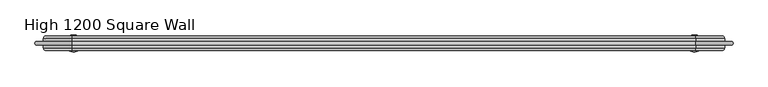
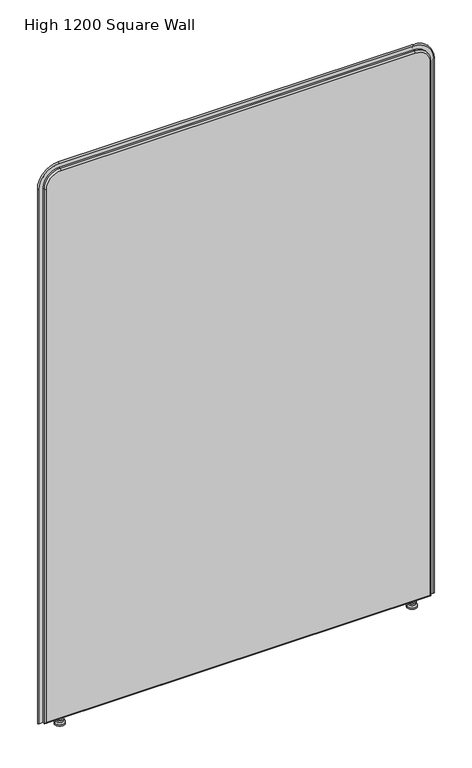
"""IFC4 building model written with IfcOpenShell, lengths in millimetres: furniture geometry, DBLTD_Sixteen3_PrivacyScreens_Artus_Square : High 1200 Square Wall."""

import ifcopenshell
import ifcopenshell.guid

model = None  # the IFC model being written
_history = None  # IfcOwnerHistory: only IFC2X3 demands one
_inside = {}  # id of a spatial element -> (the spatial element, [elements in it])
_under = {}  # id of a project, library or spatial element -> (it, [spatial elements below it])
_declared = {}  # id of a project -> (the project, [libraries it declares])
_typed = {}  # id of a type object -> (the type object, [elements of that type])
_made_of = {}  # id of a material, layer set ... -> (it, [elements and type objects made of it])


def new_model(schema):
    """Start an empty IFC model of exactly this schema.

    Asked for "IFC4X3", IfcOpenShell would pick the latest addendum, in which some entities
    have other attributes; the version numbers below select the first issue.
    IFC2X3 requires an IfcOwnerHistory on every rooted entity: one is made here for all.
    """
    global model, _history
    if schema == "IFC4X3":
        model = ifcopenshell.file(schema_version=(4, 3, 0, 0))
    else:
        model = ifcopenshell.file(schema=schema)
    _inside.clear()
    _under.clear()
    _declared.clear()
    _typed.clear()
    _made_of.clear()
    _history = None
    if model.schema == "IFC2X3":
        org = make("IfcOrganization", Name="unknown")
        user = make(
            "IfcPersonAndOrganization",
            ThePerson=make("IfcPerson", FamilyName="unknown"),
            TheOrganization=org,
        )
        app = make(
            "IfcApplication",
            ApplicationDeveloper=org,
            Version="unknown",
            ApplicationFullName="unknown",
            ApplicationIdentifier="unknown",
        )
        _history = make(
            "IfcOwnerHistory",
            OwningUser=user,
            OwningApplication=app,
            ChangeAction="ADDED",
            CreationDate=0,
        )
    return model


def make(cls, **values):
    """One entity of the class cls with the attributes given. An attribute that is None is left unset."""
    return model.create_entity(
        cls, **{name: value for name, value in values.items() if value is not None}
    )


def rooted(cls, **values):
    """An entity with a GlobalId (a new one), such as an element, a storey or a relation."""
    return make(cls, GlobalId=ifcopenshell.guid.new(), OwnerHistory=_history, **values)


def si_unit(unit_type, name, prefix=None):
    """IfcSIUnit, for example si_unit("LENGTHUNIT", "METRE", prefix="MILLI")."""
    return make("IfcSIUnit", UnitType=unit_type, Prefix=prefix, Name=name)


def assignment(units):
    """IfcUnitAssignment: the units of a project."""
    return None if units is None else make("IfcUnitAssignment", Units=units)


def point(xyz):
    """IfcCartesianPoint."""
    return None if xyz is None else make("IfcCartesianPoint", Coordinates=xyz)


def direction(xyz):
    """IfcDirection."""
    return None if xyz is None else make("IfcDirection", DirectionRatios=xyz)


def frame(location, z_axis=None, x_axis=None):
    """IfcAxis2Placement3D, a coordinate frame: its origin and axes. An axis left out is left unset."""
    return make(
        "IfcAxis2Placement3D",
        Location=point(location),
        Axis=direction(z_axis),
        RefDirection=direction(x_axis),
    )


def origin():
    """The frame at (0, 0, 0) with its axes left unset."""
    return frame((0.0, 0.0, 0.0))


def place(relative_to, where):
    """IfcLocalPlacement: puts the frame where relative to a parent placement (None: the world)."""
    return make(
        "IfcLocalPlacement", PlacementRelTo=relative_to, RelativePlacement=where
    )


def context(
    kind, dimensions, precision=None, world=None, true_north=None, identifier=None
):
    """IfcGeometricRepresentationContext, for example the 3D "Model" context."""
    return make(
        "IfcGeometricRepresentationContext",
        ContextIdentifier=identifier,
        ContextType=kind,
        CoordinateSpaceDimension=dimensions,
        Precision=precision,
        WorldCoordinateSystem=world,
        TrueNorth=true_north,
    )


def project(units=None, contexts=None):
    """IfcProject with its units and contexts."""
    return rooted(
        "IfcProject",
        Name="project",
        RepresentationContexts=contexts,
        UnitsInContext=assignment(units),
    )


def spatial(cls, under=None, at=None, **own):
    """A site, building, storey or space (cls), placed at a placement, below another one or the project."""
    s = rooted(cls, ObjectPlacement=at, **own)
    if under is not None:
        _under.setdefault(under.id(), (under, []))[1].append(s)
    return s


def polyline(points):
    """IfcPolyline through the points."""
    return make("IfcPolyline", Points=[point(p) for p in points])


def circle_curve(where, radius):
    """IfcCircle in the frame where."""
    return make("IfcCircle", Position=where, Radius=radius)


def ellipse_curve(where, semi_axis1, semi_axis2):
    """IfcEllipse in the frame where."""
    return make(
        "IfcEllipse", Position=where, SemiAxis1=semi_axis1, SemiAxis2=semi_axis2
    )


def trimmed(basis, trim1, trim2, sense, master):
    """IfcTrimmedCurve: the piece of a basis curve between two trims."""
    return make(
        "IfcTrimmedCurve",
        BasisCurve=basis,
        Trim1=trim1,
        Trim2=trim2,
        SenseAgreement=sense,
        MasterRepresentation=master,
    )


def shape(context_of_items, identifier, shape_type, items):
    """IfcShapeRepresentation: the items that make up one representation, for example the "Body"."""
    return make(
        "IfcShapeRepresentation",
        ContextOfItems=context_of_items,
        RepresentationIdentifier=identifier,
        RepresentationType=shape_type,
        Items=items,
    )


def source(mapping_origin, context_of_items, identifier, shape_type, items):
    """IfcRepresentationMap: a shape defined once, which mapped items show again and again."""
    return make(
        "IfcRepresentationMap",
        MappingOrigin=mapping_origin,
        MappedRepresentation=shape(context_of_items, identifier, shape_type, items),
    )


def transform(
    local_origin,
    x_axis=None,
    y_axis=None,
    z_axis=None,
    scale=None,
    scale2=None,
    scale3=None,
    uniform=True,
):
    """IfcCartesianTransformationOperator3D, or its non-uniform kind. x_axis, y_axis, z_axis: its Axis1, 2, 3."""
    if uniform:
        return make(
            "IfcCartesianTransformationOperator3D",
            Axis1=direction(x_axis),
            Axis2=direction(y_axis),
            LocalOrigin=point(local_origin),
            Scale=scale,
            Axis3=direction(z_axis),
        )
    return make(
        "IfcCartesianTransformationOperator3DnonUniform",
        Axis1=direction(x_axis),
        Axis2=direction(y_axis),
        LocalOrigin=point(local_origin),
        Scale=scale,
        Axis3=direction(z_axis),
        Scale2=scale2,
        Scale3=scale3,
    )


def mapped(mapping_source, mapping_target):
    """IfcMappedItem: shows the shape of a source again, moved by a transform."""
    return make(
        "IfcMappedItem", MappingSource=mapping_source, MappingTarget=mapping_target
    )


def made_of(thing, what):
    """Note that an element or type object is made of a material, layer set ...; save() writes the relation."""
    if what is not None:
        _made_of.setdefault(what.id(), (what, []))[1].append(thing)
    return thing


def element(
    cls,
    number,
    at=None,
    inside=None,
    cuts=None,
    type_object=None,
    material=None,
    context=None,
    identifier="Body",
    shape_type=None,
    held_by="IfcProductDefinitionShape",
    body=None,
    shapes=None,
    **own,
):
    """One element of the class cls, such as IfcWall. Its Tag is "e" and its number.

    at: its placement. inside: the storey or other place that contains it. cuts: it is an
    opening in that element (IfcRelVoidsElement). A single representation is given by context,
    identifier, shape_type and body (its items); several are given by shapes. held_by: the class
    of the entity that holds the representations. save() writes the other relations.
    """
    e = rooted(cls, Tag="e%d" % number, ObjectPlacement=at, **own)
    if body is not None:
        shapes = [shape(context, identifier, shape_type, body)]
    if shapes is not None:
        e.Representation = make(held_by, Representations=shapes)
    if inside is not None:
        _inside.setdefault(inside.id(), (inside, []))[1].append(e)
    if cuts is not None:
        rooted(
            "IfcRelVoidsElement", RelatingBuildingElement=cuts, RelatedOpeningElement=e
        )
    if type_object is not None:
        _typed.setdefault(type_object.id(), (type_object, []))[1].append(e)
    return made_of(e, material)


def aggregate(whole, parts):
    """IfcRelAggregates: a whole, such as a stair, and the parts it consists of."""
    return rooted("IfcRelAggregates", RelatingObject=whole, RelatedObjects=parts)


def save(model, path):
    """Write the relations noted so far, then the file.

    IfcRelAggregates (storeys below a building ...), IfcRelContainedInSpatialStructure (elements
    in a storey), IfcRelDefinesByType, IfcRelAssociatesMaterial and IfcRelDeclares: one each for
    every whole, place, type object, material and project.
    """
    for whole, parts in _under.values():
        aggregate(whole, parts)
    for where, things in _inside.values():
        rooted(
            "IfcRelContainedInSpatialStructure",
            RelatedElements=things,
            RelatingStructure=where,
        )
    for kind, things in _typed.values():
        rooted("IfcRelDefinesByType", RelatedObjects=things, RelatingType=kind)
    for what, things in _made_of.values():
        rooted("IfcRelAssociatesMaterial", RelatedObjects=things, RelatingMaterial=what)
    for by, libraries in _declared.values():
        rooted("IfcRelDeclares", RelatingContext=by, RelatedDefinitions=libraries)
    model.write(path)


def plane_surface(at):
    """IfcPlane: the flat surface through the origin of the frame at, square to its z axis."""
    return make("IfcPlane", Position=at)


def cylinder_surface(at, radius):
    """IfcCylindricalSurface: all points at the distance radius from the z axis of the frame at."""
    return make("IfcCylindricalSurface", Position=at, Radius=radius)


def revolved_surface(curve, axis_point, axis_direction):
    """IfcSurfaceOfRevolution: the curve turned about the line through axis_point along axis_direction."""
    return make(
        "IfcSurfaceOfRevolution",
        SweptCurve=make("IfcArbitraryOpenProfileDef", ProfileType="CURVE", Curve=curve),
        AxisPosition=make("IfcAxis1Placement", Location=point(axis_point), Axis=direction(axis_direction)),
    )


def advanced_brep(points, edges, surfaces, faces):
    """IfcAdvancedBrep: a solid bounded by faces that lie on surfaces and meet in shared edges.

    An edge is (start, end): straight between two places in points (the first is 0);
    or (start, end, curve); or (start, end, curve, False) where it runs against its curve.
    A face is (place in surfaces, loops), or (place, loops, False) where it looks against
    its surface's normal. A loop lists edges by number (the first is 1), with a minus sign
    where the edge is run from its end to its start. The first loop is the outer one.
    """
    corners = [point(p) for p in points]
    vertices = [make("IfcVertexPoint", VertexGeometry=c) for c in corners]
    made = []
    for start, end, *more in edges:
        made.append(
            make(
                "IfcEdgeCurve",
                EdgeStart=vertices[start],
                EdgeEnd=vertices[end],
                EdgeGeometry=more[0] if more else make("IfcPolyline", Points=[corners[start], corners[end]]),
                SameSense=more[1] if len(more) > 1 else True,
            )
        )
    hull = []
    for where, loops, *sense in faces:
        bounds = []
        for j, loop in enumerate(loops):
            ring = [make("IfcOrientedEdge", EdgeElement=made[abs(k) - 1], Orientation=k > 0) for k in loop]
            bounds.append(
                make(
                    "IfcFaceOuterBound" if j == 0 else "IfcFaceBound",
                    Bound=make("IfcEdgeLoop", EdgeList=ring),
                    Orientation=True,
                )
            )
        hull.append(make("IfcAdvancedFace", Bounds=bounds, FaceSurface=surfaces[where], SameSense=sense[0] if sense else True))
    return make("IfcAdvancedBrep", Outer=make("IfcClosedShell", CfsFaces=hull))


def high_1200_square_wall_e177793e(model_context):
    return source(origin(), model_context, "Body", "AdvancedBrep", [
        advanced_brep(
        [(542.2938623, -820.0, 22.0), (535.2938623, -820.0, 22.0), (549.2938623, -820.0, 22.0), (535.2938623, -820.0, 15.0), (549.2938623, -820.0, 15.0), (530.8431626, -820.0, 15.0), (553.744562, -820.0, 15.0), (530.8431626, -820.0, 10.0), (553.744562, -820.0, 10.0), (527.2938623, -820.0, 5.0), (557.2938623, -820.0, 5.0), (527.2938623, -820.0, 0.0), (557.2938623, -820.0, 0.0), (542.2938623, -820.0, 0.0)],
        [
            (0, 1),
            (1, 2, circle_curve(frame((542.2938623, -820.0, 22.0), z_axis=(0.0, 0.0, 1.0), x_axis=(1.0, 0.0, 0.0)), 7.0)),
            (2, 0),
            (2, 1, circle_curve(frame((542.2938623, -820.0, 22.0), z_axis=(0.0, 0.0, 1.0), x_axis=(1.0, 0.0, 0.0)), 7.0)),
            (1, 3),
            (3, 4, circle_curve(frame((542.2938623, -820.0, 15.0), z_axis=(0.0, 0.0, 1.0), x_axis=(1.0, 0.0, 0.0)), 7.0)),
            (4, 2),
            (4, 3, circle_curve(frame((542.2938623, -820.0, 15.0), z_axis=(0.0, 0.0, 1.0), x_axis=(1.0, 0.0, 0.0)), 7.0)),
            (3, 5),
            (5, 6, circle_curve(frame((542.2938623, -820.0, 15.0), z_axis=(0.0, 0.0, 1.0), x_axis=(1.0, 0.0, 0.0)), 11.4506997)),
            (6, 4),
            (6, 5, circle_curve(frame((542.2938623, -820.0, 15.0), z_axis=(0.0, 0.0, 1.0), x_axis=(1.0, 0.0, 0.0)), 11.4506997)),
            (5, 7),
            (7, 8, circle_curve(frame((542.2938623, -820.0, 10.0), z_axis=(0.0, 0.0, 1.0), x_axis=(1.0, 0.0, 0.0)), 11.4506997)),
            (8, 6),
            (8, 7, circle_curve(frame((542.2938623, -820.0, 10.0), z_axis=(0.0, 0.0, 1.0), x_axis=(1.0, 0.0, 0.0)), 11.4506997)),
            (7, 9),
            (9, 10, circle_curve(frame((542.2938623, -820.0, 5.0), z_axis=(0.0, 0.0, 1.0), x_axis=(1.0, 0.0, 0.0)), 15.0)),
            (10, 8),
            (10, 9, circle_curve(frame((542.2938623, -820.0, 5.0), z_axis=(0.0, 0.0, 1.0), x_axis=(1.0, 0.0, 0.0)), 15.0)),
            (9, 11),
            (11, 12, circle_curve(frame((542.2938623, -820.0, 0.0), z_axis=(0.0, 0.0, 1.0), x_axis=(1.0, 0.0, 0.0)), 15.0)),
            (12, 10),
            (12, 11, circle_curve(frame((542.2938623, -820.0, 0.0), z_axis=(0.0, 0.0, 1.0), x_axis=(1.0, 0.0, 0.0)), 15.0)),
            (11, 13),
            (13, 12),
        ],
        [
            plane_surface(frame((542.2938623, -820.0, 22.0), z_axis=(0.0, 0.0, 1.0), x_axis=(1.0, 0.0, 0.0))),
            cylinder_surface(frame((542.2938623, -820.0, 5.0), z_axis=(0.0, 0.0, 1.0), x_axis=(1.0, 0.0, 0.0)), 7.0),
            plane_surface(frame((542.2938623, -820.0, 15.0), z_axis=(0.0, 0.0, 1.0), x_axis=(1.0, 0.0, 0.0))),
            cylinder_surface(frame((542.2938623, -820.0, 5.0), z_axis=(0.0, 0.0, 1.0), x_axis=(1.0, 0.0, 0.0)), 11.4506997),
            revolved_surface(polyline([(557.2938623, -820.0, 5.0), (553.744562, -820.0, 10.0)]), (542.2938623, -820.0, 5.0), (0.0, 0.0, 1.0)),
            cylinder_surface(frame((542.2938623, -820.0, 5.0), z_axis=(0.0, 0.0, 1.0), x_axis=(1.0, 0.0, 0.0)), 15.0),
            plane_surface(frame((542.2938623, -820.0, 0.0), z_axis=(0.0, 0.0, -1.0), x_axis=(1.0, 0.0, 0.0))),
        ],
        [
            (0, [[1, 2, 3]]),
            (0, [[-3, 4, -1]]),
            (1, [[5, 6, 7, -2]]),
            (1, [[-7, 8, -5, -4]]),
            (2, [[9, 10, 11, -6]]),
            (2, [[-11, 12, -9, -8]]),
            (3, [[13, 14, 15, -10]]),
            (3, [[-15, 16, -13, -12]]),
            (4, [[17, 18, 19, -14]]),
            (4, [[-19, 20, -17, -16]]),
            (5, [[21, 22, 23, -18]]),
            (5, [[-23, 24, -21, -20]]),
            (6, [[25, 26, -22]]),
            (6, [[-26, -25, -24]]),
        ],
    ),
        advanced_brep(
        [(-535.2938623, -820.0, 22.0), (-542.2938623, -820.0, 22.0), (-549.2938623, -820.0, 22.0), (-535.2938623, -820.0, 15.0), (-549.2938623, -820.0, 15.0), (-530.8431626, -820.0, 15.0), (-553.744562, -820.0, 15.0), (-530.8431626, -820.0, 10.0), (-553.744562, -820.0, 10.0), (-527.2938623, -820.0, 5.0), (-557.2938623, -820.0, 5.0), (-527.2938623, -820.0, 0.0), (-557.2938623, -820.0, 0.0), (-542.2938623, -820.0, 0.0)],
        [
            (0, 1),
            (1, 2),
            (2, 0, circle_curve(frame((-542.2938623, -820.0, 22.0), z_axis=(0.0, 0.0, 1.0), x_axis=(-1.0, 0.0, 0.0)), 7.0)),
            (0, 2, circle_curve(frame((-542.2938623, -820.0, 22.0), z_axis=(0.0, 0.0, 1.0), x_axis=(-1.0, 0.0, 0.0)), 7.0)),
            (3, 0),
            (2, 4),
            (4, 3, circle_curve(frame((-542.2938623, -820.0, 15.0), z_axis=(0.0, 0.0, 1.0), x_axis=(-1.0, 0.0, 0.0)), 7.0)),
            (3, 4, circle_curve(frame((-542.2938623, -820.0, 15.0), z_axis=(0.0, 0.0, 1.0), x_axis=(-1.0, 0.0, 0.0)), 7.0)),
            (5, 3),
            (4, 6),
            (6, 5, circle_curve(frame((-542.2938623, -820.0, 15.0), z_axis=(0.0, 0.0, 1.0), x_axis=(-1.0, 0.0, 0.0)), 11.4506997)),
            (5, 6, circle_curve(frame((-542.2938623, -820.0, 15.0), z_axis=(0.0, 0.0, 1.0), x_axis=(-1.0, 0.0, 0.0)), 11.4506997)),
            (7, 5),
            (6, 8),
            (8, 7, circle_curve(frame((-542.2938623, -820.0, 10.0), z_axis=(0.0, 0.0, 1.0), x_axis=(-1.0, 0.0, 0.0)), 11.4506997)),
            (7, 8, circle_curve(frame((-542.2938623, -820.0, 10.0), z_axis=(0.0, 0.0, 1.0), x_axis=(-1.0, 0.0, 0.0)), 11.4506997)),
            (9, 7),
            (8, 10),
            (10, 9, circle_curve(frame((-542.2938623, -820.0, 5.0), z_axis=(0.0, 0.0, 1.0), x_axis=(-1.0, 0.0, 0.0)), 15.0)),
            (9, 10, circle_curve(frame((-542.2938623, -820.0, 5.0), z_axis=(0.0, 0.0, 1.0), x_axis=(-1.0, 0.0, 0.0)), 15.0)),
            (11, 9),
            (10, 12),
            (12, 11, circle_curve(frame((-542.2938623, -820.0, 0.0), z_axis=(0.0, 0.0, 1.0), x_axis=(-1.0, 0.0, 0.0)), 15.0)),
            (11, 12, circle_curve(frame((-542.2938623, -820.0, 0.0), z_axis=(0.0, 0.0, 1.0), x_axis=(-1.0, 0.0, 0.0)), 15.0)),
            (13, 11),
            (12, 13),
        ],
        [
            plane_surface(frame((-542.2938623, -820.0, 22.0), z_axis=(0.0, 0.0, 1.0), x_axis=(-1.0, 0.0, 0.0))),
            cylinder_surface(frame((-542.2938623, -820.0, 5.0), z_axis=(0.0, 0.0, -1.0), x_axis=(-1.0, 0.0, 0.0)), 7.0),
            plane_surface(frame((-542.2938623, -820.0, 15.0), z_axis=(0.0, 0.0, 1.0), x_axis=(-1.0, 0.0, 0.0))),
            cylinder_surface(frame((-542.2938623, -820.0, 5.0), z_axis=(0.0, 0.0, -1.0), x_axis=(-1.0, 0.0, 0.0)), 11.4506997),
            revolved_surface(polyline([(-553.744562, -820.0, 10.0), (-557.2938623, -820.0, 5.0)]), (-542.2938623, -820.0, 5.0), (0.0, 0.0, -1.0)),
            cylinder_surface(frame((-542.2938623, -820.0, 5.0), z_axis=(0.0, 0.0, -1.0), x_axis=(-1.0, 0.0, 0.0)), 15.0),
            plane_surface(frame((-542.2938623, -820.0, 0.0), z_axis=(0.0, 0.0, -1.0), x_axis=(-1.0, 0.0, 0.0))),
        ],
        [
            (0, [[1, 2, 3]]),
            (0, [[-2, -1, 4]]),
            (1, [[5, -3, 6, 7]]),
            (1, [[-6, -4, -5, 8]]),
            (2, [[9, -7, 10, 11]]),
            (2, [[-10, -8, -9, 12]]),
            (3, [[13, -11, 14, 15]]),
            (3, [[-14, -12, -13, 16]]),
            (4, [[17, -15, 18, 19]]),
            (4, [[-18, -16, -17, 20]]),
            (5, [[21, -19, 22, 23]]),
            (5, [[-22, -20, -21, 24]]),
            (6, [[25, -23, 26]]),
            (6, [[-26, -24, -25]]),
        ],
    ),
        advanced_brep(
        [(-590.0, -807.0, 27.0), (-590.0, -807.0, 1760.0), (-545.0, -807.0, 1805.0), (545.0, -807.0, 1805.0), (590.0, -807.0, 1760.0), (590.0, -807.0, 27.0), (590.0, -833.0, 27.0), (590.0, -833.0, 1760.0), (545.0, -833.0, 1805.0), (-545.0, -833.0, 1805.0), (-590.0, -833.0, 1760.0), (-590.0, -833.0, 27.0), (545.0, -812.0, 1810.0), (-545.0, -812.0, 1810.0), (-545.0, -828.0, 1810.0), (545.0, -828.0, 1810.0), (-595.0, -812.0, 1760.0), (-595.0, -828.0, 1760.0), (-595.0, -812.0, 22.0), (-595.0, -828.0, 22.0), (595.0, -812.0, 22.0), (595.0, -828.0, 22.0), (595.0, -812.0, 1760.0), (595.0, -828.0, 1760.0)],
        [
            (0, 1),
            (1, 2, circle_curve(frame((-545.0, -807.0, 1760.0), z_axis=(0.0, 1.0, 0.0), x_axis=(0.0, 0.0, 1.0)), 45.0)),
            (2, 3),
            (3, 4, circle_curve(frame((545.0, -807.0, 1760.0), z_axis=(0.0, 1.0, 0.0), x_axis=(1.0, 0.0, 0.0)), 45.0)),
            (4, 5),
            (5, 0),
            (6, 7),
            (7, 8, circle_curve(frame((545.0, -833.0, 1760.0), z_axis=(0.0, -1.0, 0.0), x_axis=(1.0, 0.0, 0.0)), 45.0)),
            (8, 9),
            (9, 10, circle_curve(frame((-545.0, -833.0, 1760.0), z_axis=(0.0, -1.0, 0.0), x_axis=(0.0, 0.0, 1.0)), 45.0)),
            (10, 11),
            (11, 6),
            (12, 13),
            (13, 14),
            (14, 15),
            (15, 12),
            (13, 16, circle_curve(frame((-545.0, -812.0, 1760.0), z_axis=(0.0, -1.0, 0.0), x_axis=(1.0, 0.0, 0.0)), 50.0)),
            (16, 17),
            (17, 14, circle_curve(frame((-545.0, -828.0, 1760.0), z_axis=(0.0, 1.0, 0.0), x_axis=(1.0, 0.0, 0.0)), 50.0)),
            (16, 18),
            (18, 19),
            (19, 17),
            (18, 20),
            (20, 21),
            (21, 19),
            (20, 22),
            (22, 23),
            (23, 21),
            (15, 23, circle_curve(frame((545.0, -828.0, 1760.0), z_axis=(0.0, 1.0, 0.0), x_axis=(1.0, 0.0, 0.0)), 50.0)),
            (22, 12, circle_curve(frame((545.0, -812.0, 1760.0), z_axis=(0.0, -1.0, 0.0), x_axis=(1.0, 0.0, 0.0)), 50.0)),
            (18, 0, ellipse_curve(frame((-590.0, -812.0, 27.0), z_axis=(0.7071067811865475, 0.0, -0.7071067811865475), x_axis=(0.7071067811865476, 0.0, 0.7071067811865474)), 7.0710678, 5.0)),
            (5, 20, ellipse_curve(frame((590.0, -812.0, 27.0), z_axis=(-0.7071067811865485, 0.0, -0.7071067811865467), x_axis=(0.7071067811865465, 0.0, -0.7071067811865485)), 7.0710678, 5.0)),
            (11, 19, ellipse_curve(frame((-590.0, -828.0, 27.0), z_axis=(0.7071067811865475, 0.0, -0.7071067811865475), x_axis=(0.7071067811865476, 0.0, 0.7071067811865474)), 7.0710678, 5.0)),
            (21, 6, ellipse_curve(frame((590.0, -828.0, 27.0), z_axis=(-0.7071067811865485, 0.0, -0.7071067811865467), x_axis=(0.7071067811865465, 0.0, -0.7071067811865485)), 7.0710678, 5.0)),
            (4, 22, circle_curve(frame((590.0, -812.0, 1760.0), z_axis=(0.0, 0.0, -1.0), x_axis=(1.0, 0.0, 0.0)), 5.0)),
            (23, 7, circle_curve(frame((590.0, -828.0, 1760.0), z_axis=(0.0, 0.0, -1.0), x_axis=(1.0, 0.0, 0.0)), 5.0)),
            (3, 12, circle_curve(frame((545.0, -812.0, 1805.0), z_axis=(1.0, 0.0, 0.0), x_axis=(0.0, 0.0, 1.0)), 5.0)),
            (15, 8, circle_curve(frame((545.0, -828.0, 1805.0), z_axis=(1.0, 0.0, 0.0), x_axis=(0.0, 0.0, 1.0)), 5.0)),
            (2, 13, circle_curve(frame((-545.0, -812.0, 1805.0), z_axis=(1.0, 0.0, 0.0), x_axis=(0.0, 0.0, 1.0)), 5.0)),
            (14, 9, circle_curve(frame((-545.0, -828.0, 1805.0), z_axis=(1.0, 0.0, 0.0), x_axis=(0.0, 0.0, 1.0)), 5.0)),
            (1, 16, circle_curve(frame((-590.0, -812.0, 1760.0), z_axis=(0.0, 0.0, 1.0), x_axis=(-1.0, 0.0, 0.0)), 5.0)),
            (17, 10, circle_curve(frame((-590.0, -828.0, 1760.0), z_axis=(0.0, 0.0, 1.0), x_axis=(-1.0, 0.0, 0.0)), 5.0)),
        ],
        [
            plane_surface(frame((-545.0, -807.0, 1810.0), z_axis=(0.0, 1.0, 0.0), x_axis=(-1.0, 0.0, 0.0))),
            plane_surface(frame((-545.0, -833.0, 1810.0), z_axis=(0.0, -1.0, 0.0), x_axis=(1.0, 0.0, 0.0))),
            plane_surface(frame((545.0, -807.0, 1810.0), z_axis=(0.0, 0.0, 1.0), x_axis=(0.0, -1.0, 0.0))),
            cylinder_surface(frame((-545.0, -833.0, 1760.0), z_axis=(0.0, 1.0, 0.0), x_axis=(1.0, 0.0, 0.0)), 50.0),
            plane_surface(frame((-595.0, -807.0, 1760.0), z_axis=(-1.0, 0.0, 0.0), x_axis=(0.0, -1.0, 0.0))),
            plane_surface(frame((-595.0, -807.0, 22.0), z_axis=(0.0, 0.0, -1.0), x_axis=(0.0, -1.0, 0.0))),
            plane_surface(frame((595.0, -807.0, 22.0), z_axis=(1.0, 0.0, 0.0), x_axis=(0.0, -1.0, 0.0))),
            cylinder_surface(frame((545.0, -833.0, 1760.0), z_axis=(0.0, 1.0, 0.0), x_axis=(1.0, 0.0, 0.0)), 50.0),
            cylinder_surface(frame((-595.0, -812.0, 27.0), z_axis=(1.0, 0.0, 0.0), x_axis=(0.0, 0.0, -1.0)), 5.0),
            cylinder_surface(frame((-595.0, -828.0, 27.0), z_axis=(1.0, 0.0, 0.0), x_axis=(0.0, 0.0, -1.0)), 5.0),
            cylinder_surface(frame((590.0, -812.0, 22.0), z_axis=(0.0, 0.0, 1.0), x_axis=(1.0, 0.0, 0.0)), 5.0),
            cylinder_surface(frame((590.0, -828.0, 22.0), z_axis=(0.0, 0.0, 1.0), x_axis=(1.0, 0.0, 0.0)), 5.0),
            revolved_surface(trimmed(ellipse_curve(frame((590.0, -812.0, 1760.0), z_axis=(0.0, 0.0, 1.0), x_axis=(1.0, 0.0, 0.0)), 5.0, 5.0), [point((595.0, -812.0, 1760.0))], [point((590.0, -807.0, 1760.0))], True, "CARTESIAN"), (545.0, -807.0, 1760.0), (0.0, 1.0, 0.0)),
            revolved_surface(trimmed(ellipse_curve(frame((590.0, -828.0, 1760.0), z_axis=(0.0, 0.0, 1.0), x_axis=(1.0, 0.0, 0.0)), 5.0, 5.0), [point((590.0, -833.0, 1760.0))], [point((595.0, -828.0, 1760.0))], True, "CARTESIAN"), (545.0, -807.0, 1760.0), (0.0, 1.0, 0.0)),
            cylinder_surface(frame((545.0, -812.0, 1805.0), z_axis=(-1.0, 0.0, 0.0), x_axis=(0.0, 0.0, 1.0)), 5.0),
            cylinder_surface(frame((545.0, -828.0, 1805.0), z_axis=(-1.0, 0.0, 0.0), x_axis=(0.0, 0.0, 1.0)), 5.0),
            revolved_surface(trimmed(ellipse_curve(frame((-545.0, -812.0, 1805.0), z_axis=(-1.0, 0.0, 0.0), x_axis=(0.0, 0.0, 1.0)), 5.0, 5.0), [point((-545.0, -812.0, 1810.0))], [point((-545.0, -807.0, 1805.0))], True, "CARTESIAN"), (-545.0, -807.0, 1760.0), (0.0, 1.0, 0.0)),
            revolved_surface(trimmed(ellipse_curve(frame((-545.0, -828.0, 1805.0), z_axis=(-1.0, 0.0, 0.0), x_axis=(0.0, 0.0, 1.0)), 5.0, 5.0), [point((-545.0, -833.0, 1805.0))], [point((-545.0, -828.0, 1810.0))], True, "CARTESIAN"), (-545.0, -807.0, 1760.0), (0.0, 1.0, 0.0)),
            cylinder_surface(frame((-590.0, -812.0, 1760.0), z_axis=(0.0, 0.0, -1.0), x_axis=(-1.0, 0.0, 0.0)), 5.0),
            cylinder_surface(frame((-590.0, -828.0, 1760.0), z_axis=(0.0, 0.0, -1.0), x_axis=(-1.0, 0.0, 0.0)), 5.0),
        ],
        [
            (0, [[1, 2, 3, 4, 5, 6]]),
            (1, [[7, 8, 9, 10, 11, 12]]),
            (2, [[13, 14, 15, 16]]),
            (3, [[17, 18, 19, -14]]),
            (4, [[20, 21, 22, -18]]),
            (5, [[23, 24, 25, -21]]),
            (6, [[26, 27, 28, -24]]),
            (7, [[29, -27, 30, -16]]),
            (8, [[-23, 31, -6, 32]]),
            (9, [[-12, 33, -25, 34]]),
            (10, [[-5, 35, -26, -32]]),
            (11, [[-28, 36, -7, -34]]),
            (12, [[-4, 37, -30, -35]]),
            (13, [[-29, 38, -8, -36]]),
            (14, [[-3, 39, -13, -37]]),
            (15, [[-15, 40, -9, -38]]),
            (16, [[-2, 41, -17, -39]]),
            (17, [[-19, 42, -10, -40]]),
            (18, [[-20, -41, -1, -31]]),
            (19, [[-11, -42, -22, -33]]),
        ],
    ),
        advanced_brep(
        [(606.9577057, -823.0, 22.0), (595.0, -823.0, 22.0), (595.0, -817.0, 22.0), (606.9577057, -817.0, 22.0), (606.9577057, -817.0, 1760.0), (606.9577057, -823.0, 1760.0), (595.0, -817.0, 1760.0), (545.0, -817.0, 1810.0), (-545.0, -817.0, 1810.0), (-595.0, -817.0, 1760.0), (-595.0, -817.0, 22.0), (-606.9577057, -817.0, 22.0), (-606.9577057, -817.0, 1760.0), (-545.0, -817.0, 1821.9577057), (545.0, -817.0, 1821.9577057), (595.0, -823.0, 1760.0), (545.0, -823.0, 1821.9577057), (-545.0, -823.0, 1821.9577057), (-606.9577057, -823.0, 1760.0), (-606.9577057, -823.0, 22.0), (-595.0, -823.0, 22.0), (-595.0, -823.0, 1760.0), (-545.0, -823.0, 1810.0), (545.0, -823.0, 1810.0)],
        [
            (0, 1),
            (1, 2),
            (2, 3),
            (3, 0, circle_curve(frame((606.9577057, -820.0, 22.0), z_axis=(0.0, 0.0, -1.0), x_axis=(1.0, 0.0, 0.0)), 3.0)),
            (3, 4),
            (4, 5, circle_curve(frame((606.9577057, -820.0, 1760.0), z_axis=(0.0, 0.0, -1.0), x_axis=(1.0, 0.0, 0.0)), 3.0)),
            (5, 0),
            (2, 6),
            (6, 7, circle_curve(frame((545.0, -817.0, 1760.0), z_axis=(0.0, -1.0, 0.0), x_axis=(1.0, 0.0, 0.0)), 50.0)),
            (7, 8),
            (8, 9, circle_curve(frame((-545.0, -817.0, 1760.0), z_axis=(0.0, -1.0, 0.0), x_axis=(0.0, 0.0, 1.0)), 50.0)),
            (9, 10),
            (10, 11),
            (11, 12),
            (12, 13, circle_curve(frame((-545.0, -817.0, 1760.0), z_axis=(0.0, 1.0, 0.0), x_axis=(0.0, 0.0, 1.0)), 61.9577057)),
            (13, 14),
            (14, 4, circle_curve(frame((545.0, -817.0, 1760.0), z_axis=(0.0, 1.0, 0.0), x_axis=(1.0, 0.0, 0.0)), 61.9577057)),
            (1, 15),
            (15, 6),
            (5, 16, circle_curve(frame((545.0, -823.0, 1760.0), z_axis=(0.0, -1.0, 0.0), x_axis=(1.0, 0.0, 0.0)), 61.9577057)),
            (16, 17),
            (17, 18, circle_curve(frame((-545.0, -823.0, 1760.0), z_axis=(0.0, -1.0, 0.0), x_axis=(0.0, 0.0, 1.0)), 61.9577057)),
            (18, 19),
            (19, 20),
            (20, 21),
            (21, 22, circle_curve(frame((-545.0, -823.0, 1760.0), z_axis=(0.0, 1.0, 0.0), x_axis=(0.0, 0.0, 1.0)), 50.0)),
            (22, 23),
            (23, 15, circle_curve(frame((545.0, -823.0, 1760.0), z_axis=(0.0, 1.0, 0.0), x_axis=(1.0, 0.0, 0.0)), 50.0)),
            (14, 16, circle_curve(frame((545.0, -820.0, 1821.9577057), z_axis=(1.0, 0.0, 0.0), x_axis=(0.0, 0.0, 1.0)), 3.0)),
            (23, 7),
            (13, 17, circle_curve(frame((-545.0, -820.0, 1821.9577057), z_axis=(1.0, 0.0, 0.0), x_axis=(0.0, 0.0, 1.0)), 3.0)),
            (22, 8),
            (12, 18, circle_curve(frame((-606.9577057, -820.0, 1760.0), z_axis=(0.0, 0.0, 1.0), x_axis=(-1.0, 0.0, 0.0)), 3.0)),
            (21, 9),
            (19, 11, circle_curve(frame((-606.9577057, -820.0, 22.0), z_axis=(0.0, 0.0, -1.0), x_axis=(-1.0, 0.0, 0.0)), 3.0)),
            (10, 20),
        ],
        [
            plane_surface(frame((595.0, -807.0, 22.0), z_axis=(0.0, 0.0, -1.0), x_axis=(1.0, 0.0, 0.0))),
            cylinder_surface(frame((606.9577057, -820.0, 22.0), z_axis=(0.0, 0.0, -1.0), x_axis=(1.0, 0.0, 0.0)), 3.0),
            plane_surface(frame((606.9577057, -817.0, 22.0), z_axis=(0.0, 1.0, 0.0), x_axis=(0.0, 0.0, 1.0))),
            plane_surface(frame((595.0, -817.0, 22.0), z_axis=(-1.0, 0.0, 0.0), x_axis=(0.0, 0.0, 1.0))),
            plane_surface(frame((595.0, -823.0, 22.0), z_axis=(0.0, -1.0, 0.0), x_axis=(0.0, 0.0, 1.0))),
            revolved_surface(trimmed(ellipse_curve(frame((606.9577057, -820.0, 1760.0), z_axis=(0.0, 0.0, 1.0), x_axis=(1.0, 0.0, 0.0)), 3.0, 3.0), [point((606.9577057, -823.0, 1760.0))], [point((606.9577057, -817.0, 1760.0))], True, "CARTESIAN"), (545.0, -807.0, 1760.0), (0.0, 1.0, 0.0)),
            revolved_surface(polyline([(595.0, -817.0, 1760.0), (595.0, -823.0, 1760.0)]), (545.0, -807.0, 1760.0), (0.0, 1.0, 0.0)),
            cylinder_surface(frame((545.0, -820.0, 1821.9577057), z_axis=(1.0, 0.0, 0.0), x_axis=(0.0, 0.0, 1.0)), 3.0),
            plane_surface(frame((545.0, -817.0, 1810.0), z_axis=(0.0, 0.0, -1.0), x_axis=(-1.0, 0.0, 0.0))),
            revolved_surface(trimmed(ellipse_curve(frame((-545.0, -820.0, 1821.9577057), z_axis=(-1.0, 0.0, 0.0), x_axis=(0.0, 0.0, 1.0)), 3.0, 3.0), [point((-545.0, -823.0, 1821.9577057))], [point((-545.0, -817.0, 1821.9577057))], True, "CARTESIAN"), (-545.0, -807.0, 1760.0), (0.0, 1.0, 0.0)),
            revolved_surface(polyline([(-545.0, -817.0, 1810.0), (-545.0, -823.0, 1810.0)]), (-545.0, -807.0, 1760.0), (0.0, 1.0, 0.0)),
            plane_surface(frame((-595.0, -807.0, 22.0), z_axis=(0.0, 0.0, -1.0), x_axis=(-1.0, 0.0, 0.0))),
            cylinder_surface(frame((-606.9577057, -820.0, 1760.0), z_axis=(0.0, 0.0, 1.0), x_axis=(-1.0, 0.0, 0.0)), 3.0),
            plane_surface(frame((-595.0, -817.0, 1760.0), z_axis=(1.0, 0.0, 0.0), x_axis=(0.0, 0.0, -1.0))),
        ],
        [
            (0, [[1, 2, 3, 4]]),
            (1, [[5, 6, 7, -4]]),
            (2, [[8, 9, 10, 11, 12, 13, 14, 15, 16, 17, -5, -3]]),
            (3, [[18, 19, -8, -2]]),
            (4, [[-7, 20, 21, 22, 23, 24, 25, 26, 27, 28, -18, -1]]),
            (5, [[29, -20, -6, -17]]),
            (6, [[30, -9, -19, -28]]),
            (7, [[-16, 31, -21, -29]]),
            (8, [[-27, 32, -10, -30]]),
            (9, [[33, -22, -31, -15]]),
            (10, [[34, -11, -32, -26]]),
            (11, [[35, -13, 36, -24]]),
            (12, [[-14, -35, -23, -33]]),
            (13, [[-25, -36, -12, -34]]),
        ],
    ),
    ])


if __name__ == "__main__":
    model = new_model("IFC4")
    model_context = context("Model", 3, world=origin())
    ifc_project = project(units=[si_unit("LENGTHUNIT", "METRE", prefix="MILLI")], contexts=[model_context])
    site = spatial("IfcSite", under=ifc_project)
    building = spatial("IfcBuilding", under=site)
    placement = place(None, origin())
    high_1200_square_wall_shape = high_1200_square_wall_e177793e(model_context)
    element("IfcFurniture", 1, ObjectType="DBLTD_Sixteen3_PrivacyScreens_Artus_Square : High 1200 Square Wall", at=placement, inside=building, context=model_context, shape_type="MappedRepresentation", body=[
        mapped(high_1200_square_wall_shape, transform((0.0, 0.0, 0.0), x_axis=(1.0, 0.0, 0.0), y_axis=(0.0, 1.0, 0.0), z_axis=(0.0, 0.0, 1.0))),
    ])
    save(model, "model.ifc")
